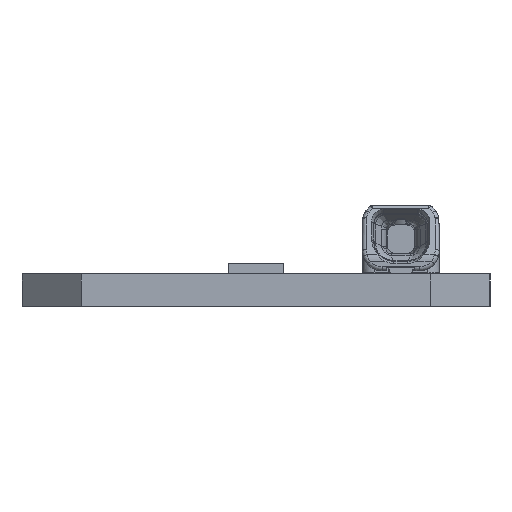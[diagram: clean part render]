
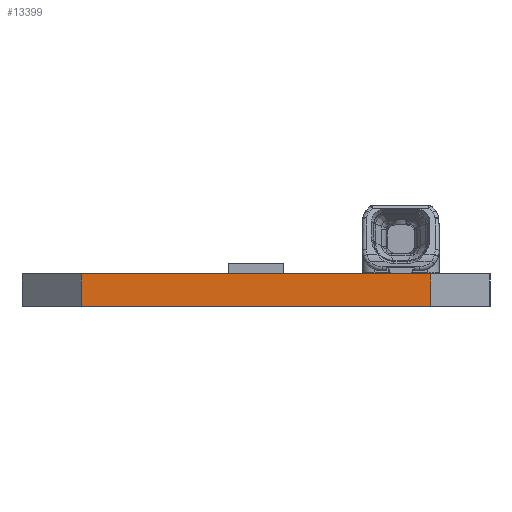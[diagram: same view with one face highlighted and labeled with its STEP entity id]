
A CAD part, left-side view. The second image highlights one B-rep face of the part: STEP entity #13399.
In plain terms, the highlighted planar face has unit normal (-1, 0, 0).
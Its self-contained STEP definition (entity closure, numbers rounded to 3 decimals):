
#626=DIRECTION('',(0.,1.,0.));
#627=VECTOR('',#626,17.6);
#628=CARTESIAN_POINT('',(-34.5,-8.8,0.));
#629=LINE('',#628,#627);
#768=DIRECTION('',(0.,0.,1.));
#769=VECTOR('',#768,1.65);
#770=CARTESIAN_POINT('',(-34.5,8.8,0.));
#771=LINE('',#770,#769);
#775=DIRECTION('',(0.,0.,1.));
#776=VECTOR('',#775,1.65);
#777=CARTESIAN_POINT('',(-34.5,-8.8,0.));
#778=LINE('',#777,#776);
#782=DIRECTION('',(0.,1.,0.));
#783=VECTOR('',#782,17.6);
#784=CARTESIAN_POINT('',(-34.5,-8.8,1.65));
#785=LINE('',#784,#783);
#11469=CARTESIAN_POINT('',(-34.5,8.8,1.65));
#11471=VERTEX_POINT('',#11469);
#11504=CARTESIAN_POINT('',(-34.5,8.8,0.));
#11506=VERTEX_POINT('',#11504);
#11524=CARTESIAN_POINT('',(-34.5,-8.8,0.));
#11525=VERTEX_POINT('',#11524);
#11544=CARTESIAN_POINT('',(-34.5,-8.8,1.65));
#11545=VERTEX_POINT('',#11544);
#13387=CARTESIAN_POINT('',(-34.5,8.8,1.65));
#13388=DIRECTION('',(-1.,0.,0.));
#13389=DIRECTION('',(0.,0.,1.));
#13390=AXIS2_PLACEMENT_3D('',#13387,#13388,#13389);
#13391=PLANE('',#13390);
#13393=ORIENTED_EDGE('',*,*,#13392,.F.);
#13394=ORIENTED_EDGE('',*,*,#13217,.T.);
#13395=ORIENTED_EDGE('',*,*,#13372,.T.);
#13396=ORIENTED_EDGE('',*,*,#12982,.F.);
#13397=EDGE_LOOP('',(#13393,#13394,#13395,#13396));
#13398=FACE_OUTER_BOUND('',#13397,.F.);
#12982=EDGE_CURVE('',#11545,#11471,#785,.T.);
#13217=EDGE_CURVE('',#11525,#11506,#629,.T.);
#13372=EDGE_CURVE('',#11506,#11471,#771,.T.);
#13392=EDGE_CURVE('',#11525,#11545,#778,.T.);
#13399=ADVANCED_FACE('',(#13398),#13391,.T.);
